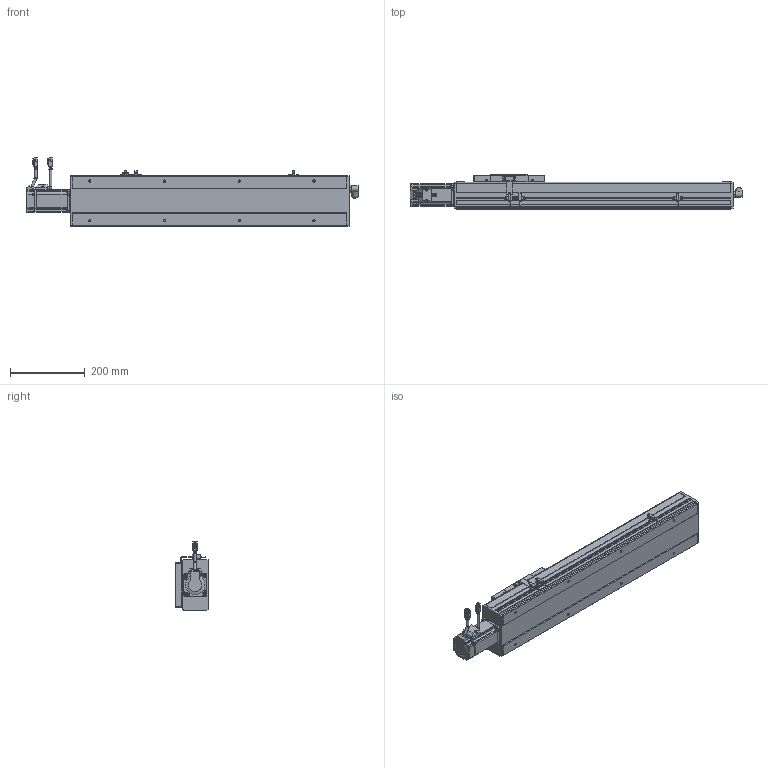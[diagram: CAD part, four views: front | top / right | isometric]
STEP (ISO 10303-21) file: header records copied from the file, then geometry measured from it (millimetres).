
FILE_DESCRIPTION(/* description */ ('STEP AP214'),/* implementation_level */ '2;1');
FILE_NAME(/* name */ 'PSC140-L05-S450-BC-P40-C1-N(0)',/* time_stamp */ '2022-06-13T03:13:45+02:00',/* author */ ('License CC BY-ND 4.0'),/* organization */ ('CADENAS'),/* preprocessor_version */ 'ST-DEVELOPER v18.102',/* originating_system */ 'PARTsolutions',/* authorisation */ ' ');
FILE_SCHEMA (('AUTOMOTIVE_DESIGN {1 0 10303 214 3 1 1}'));
Length unit declared in the file: millimetre
Products named in the file (10): PSC140-L05-S450-BC-P40-C1-N(0); P40-s2; P40-c2; P40-s1; P40-c1; P40-p1; PSC140-sensor; PSC140-BC-SLIDER; PSC140-S450-BC-P40-C1_BODY1; PSC140-L05-S450-BC-P40-C1-N(0)_dummy
Assembly tree (11 placements, depth 2):
  PSC140-L05-S450-BC-P40-C1-N(0)
    P40-s2
    P40-c2
    P40-s1
    P40-c1
    P40-p1
    PSC140-sensor  x3
    PSC140-BC-SLIDER
    PSC140-S450-BC-P40-C1_BODY1
    PSC140-L05-S450-BC-P40-C1-N(0)_dummy
Bounding box: 889 x 91 x 182.48 mm (x, y, z)
Volume: 7829634.4 mm3; surface area: 492401.6 mm2
Topology: 10 solids, 10 shells, 1238 faces, 3200 edges, 2115 vertices
Faces by surface type: plane 862, cylinder 313, cone 44, torus 19
Full cylindrical faces by diameter (mm): 1 x8, 2.6 x10, 2.8 x3, 3.3 x8, 4.5 x12, 4.6 x3, 4.917 x12, 5 x4, 5.5 x8, 6 x10, 6.08 x4, 7 x10, 9 x2, 10 x1, 11 x1, 13.74 x1, 14 x1, 16.4 x2, 16.5 x1, 19.98 x1, 31.98 x1, 35.5 x1, 50 x2
Entity records: 34238 total; most frequent: CARTESIAN_POINT 5983, DIRECTION 5755, ORIENTED_EDGE 5558, EDGE_CURVE 2779, LINE 2109, VECTOR 2109, VERTEX_POINT 1936, AXIS2_PLACEMENT_3D 1823
